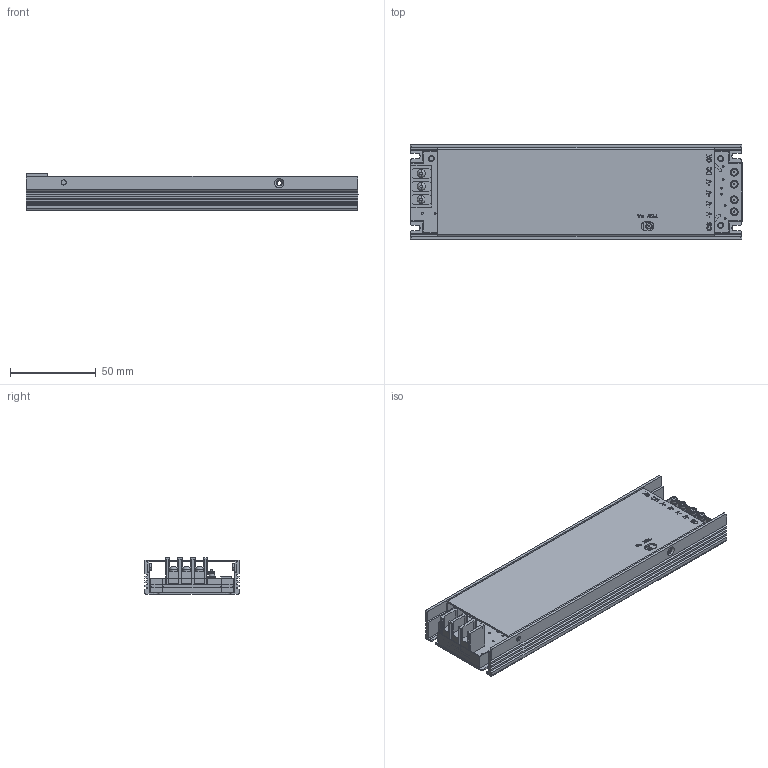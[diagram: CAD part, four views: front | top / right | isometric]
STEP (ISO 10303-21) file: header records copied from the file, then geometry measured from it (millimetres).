
FILE_DESCRIPTION((''),'2;1');
FILE_NAME('LSP-160_ASM_ASM','2019-10-21T15:11:06',('shalinice'),(''),'CREO PARAMETRIC BY PTC INC, 2016390','CREO PARAMETRIC BY PTC INC, 2016390','');
FILE_SCHEMA(('AUTOMOTIVE_DESIGN { 1 0 10303 214 1 1 1 1 }'));
Products named in the file (41): __1_1; __4; 1EE4LSP-160F_ASM_ASM; 1EE4LSP-160M; 1EE4LSP_1_ASM_ASM; __1_1_1; __4_1; 1EE4LSP-160F_1_ASM_ASM; 1EE4LSP-160M_1; 1EE4LSP_ASM_ASM; TB1; 1AR-_336; 1AR-_336_1; 1AR-_336_2; 1AR-_336_3; 1AR-_336_4; 1AR-_336_5; 1AR-_336_6; 1AR-_336_7; 1AR-_3362P_ASM_ASM; VR1_1_ASM_ASM; VR1_ASM_ASM; BOARD_1; BOARD_ASM_ASM; __1_1_2; __4_2; 1EE4LSP-160F_2_ASM_ASM; 1EE4LSP-160M_2; 1EE4LSP_2_ASM_ASM; __1_1_3; __4_3; 1EE4LSP-160F_3_ASM_ASM; 1EE4LSP-160M_3; 1EE4LSP_3_ASM_ASM; CC_ASM_ASM; 1XX3LSP-160_2; LSP-160A-D; LSP-160A-T; CASE_ASM_ASM; LSP-160_ASM_1_ASM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
Assembly tree (41 placements, depth 7):
  LSP-160_ASM_ASM
    LSP-160_ASM_1_ASM
      CC_ASM_ASM
        1EE4LSP_1_ASM_ASM
          1EE4LSP-160F_ASM_ASM
            __1_1
            __4
          1EE4LSP-160M
        1EE4LSP_ASM_ASM
          1EE4LSP-160F_1_ASM_ASM
            __1_1_1
            __4_1
          1EE4LSP-160M_1
        TB1
        VR1_ASM_ASM
          VR1_1_ASM_ASM
            1AR-_3362P_ASM_ASM
              1AR-_336
              1AR-_336_1
              1AR-_336_2
              1AR-_336_3
              1AR-_336_4
              1AR-_336_5
              1AR-_336_6
              1AR-_336_7
        BOARD_ASM_ASM
          BOARD_1
        1EE4LSP_2_ASM_ASM
          1EE4LSP-160F_2_ASM_ASM
            __1_1_2
            __4_2
          1EE4LSP-160M_2
        1EE4LSP_3_ASM_ASM
          1EE4LSP-160F_3_ASM_ASM
            __1_1_3
            __4_3
          1EE4LSP-160M_3
      CASE_ASM_ASM
        1XX3LSP-160_2  x2
        LSP-160A-D
        LSP-160A-T
Bounding box: 194 x 55 x 21.6 mm (x, y, z)
Volume: 53199.4 mm3; surface area: 88157.7 mm2
Topology: 26 solids, 26 shells, 1855 faces, 5400 edges, 3566 vertices
Faces by surface type: plane 1126, cylinder 561, torus 88, cone 56, sphere 10, extrusion 8, bspline 6
Entity records: 83514 total; most frequent: CARTESIAN_POINT 16596, ORIENTED_EDGE 10656, DIRECTION 9673, PRESENTATION_STYLE_ASSIGNMENT 5353, STYLED_ITEM 5353, CURVE_STYLE 5328, EDGE_CURVE 5328, VERTEX_POINT 3530
